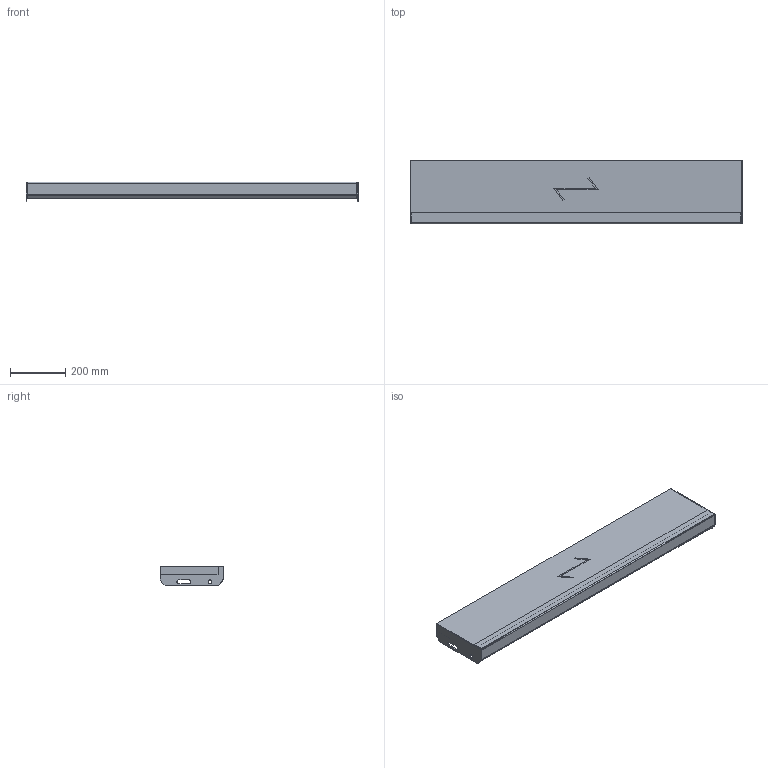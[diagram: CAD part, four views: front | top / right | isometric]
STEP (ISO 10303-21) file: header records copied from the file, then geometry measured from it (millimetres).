
FILE_DESCRIPTION (( 'STEP AP203' ), '1' );
FILE_NAME ('StegTH6-S-nya_steget-1200x230.STEP', '2020-03-04T07:45:32', ( '' ), ( '' ), 'SwSTEP 2.0', 'SolidWorks 2019', '' );
FILE_SCHEMA (( 'CONFIG_CONTROL_DESIGN' ));
Length unit declared in the file: millimetre
Products named in the file (5): SW0000039248; SW0000039569; SW0000038701; SW0000038940; StegTH6-S-nya_steget-1200x230
Assembly tree (5 placements, depth 3):
  StegTH6-S-nya_steget-1200x230
    SW0000039569
      SW0000038940
      SW0000039248
      SW0000038701  x2
Bounding box: 1200 x 230 x 72 mm (x, y, z)
Volume: 7809706 mm3; surface area: 886570.4 mm2
Topology: 4 solids, 4 shells, 67 faces, 158 edges, 100 vertices
Faces by surface type: plane 51, cylinder 16
Entity records: 2002 total; most frequent: DIRECTION 261, CARTESIAN_POINT 254, ORIENTED_EDGE 238, EDGE_CURVE 119, VECTOR 99, LINE 99, AXIS2_PLACEMENT_3D 81, VERTEX_POINT 74
